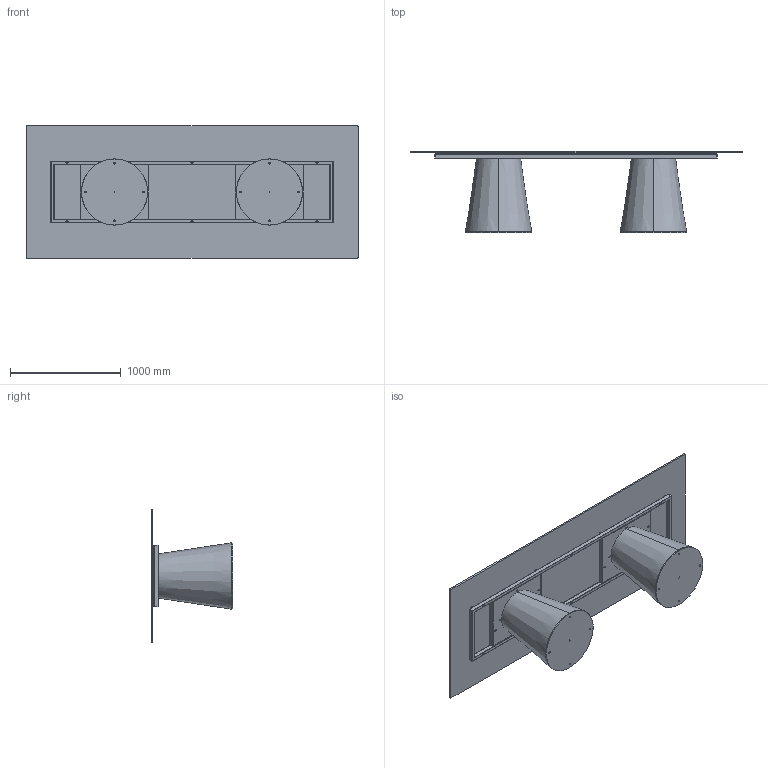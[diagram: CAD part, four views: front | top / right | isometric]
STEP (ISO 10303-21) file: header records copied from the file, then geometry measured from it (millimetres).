
FILE_DESCRIPTION (( 'STEP AP203' ), '1' );
FILE_NAME ('TO24G_Teo_300x120_Glass Rectangular.STEP', '2024-08-02T09:34:38', ( '' ), ( '' ), 'SwSTEP 2.0', 'SolidWorks 2022', '' );
FILE_SCHEMA (( 'CONFIG_CONTROL_DESIGN' ));
Length unit declared in the file: millimetre
Products named in the file (11): M8xXXmm_hex_M8X20mm; COLLO TELAIO UNIVERSALE TTAV03 CON FERRAMENTA_MTG TOP CRISTALLO VERNICIATO-CERAMICA; TEO000000PIA-00-TEO PIASTRA DI BASE IN METALLO GREZZO; TTAV03-06-TELAIO UNIVERSALE X TAVOLI 300-340cm; BASE TED LEGNO CON ZAVORRA; TTAV03_02-06-VASSOIO IRRIGIDIMENTO TELAIO UNIVERSALE RETTANGOLARE; C2XCRXX-00-Piani Rettangolari Cristallo_24 3000x1200; 434070-00-PIEDINO TPV GOMMA NERO D. 30x8max18_filo estetico; TTAV03_01-06-RING TUBO TELAIO UNIVERSALE X TAVOLI 300-340cm; TO24G_Teo_300x120_Glass Rectangular; TEO0000-00-TEO BASE LEGNO IMPIALLACCIATA LEVIGATO PRONTA X VERNICE
Assembly tree (22 placements, depth 4):
  TO24G_Teo_300x120_Glass Rectangular
    BASE TED LEGNO CON ZAVORRA  x2
      TEO000000PIA-00-TEO PIASTRA DI BASE IN METALLO GREZZO
      TEO0000-00-TEO BASE LEGNO IMPIALLACCIATA LEVIGATO PRONTA X VERNICE
      M8xXXmm_hex_M8X20mm
    COLLO TELAIO UNIVERSALE TTAV03 CON FERRAMENTA_MTG TOP CRISTALLO VERNICIATO-CERAMICA
      TTAV03-06-TELAIO UNIVERSALE X TAVOLI 300-340cm
        TTAV03_01-06-RING TUBO TELAIO UNIVERSALE X TAVOLI 300-340cm
        TTAV03_02-06-VASSOIO IRRIGIDIMENTO TELAIO UNIVERSALE RETTANGOLARE  x2
      434070-00-PIEDINO TPV GOMMA NERO D. 30x8max18_filo estetico  x8
    C2XCRXX-00-Piani Rettangolari Cristallo_24 3000x1200
Bounding box: 3000 x 738.19 x 1200 mm (x, y, z)
Volume: 114561888.6 mm3; surface area: 16965721 mm2
Topology: 32 solids, 32 shells, 862 faces, 1952 edges, 1144 vertices
Faces by surface type: plane 426, cylinder 276, cone 104, torus 48, sphere 8
Entity records: 12073 total; most frequent: DIRECTION 1942, CARTESIAN_POINT 1801, ORIENTED_EDGE 1728, EDGE_CURVE 864, AXIS2_PLACEMENT_3D 704, LINE 534, VECTOR 534, VERTEX_POINT 531
